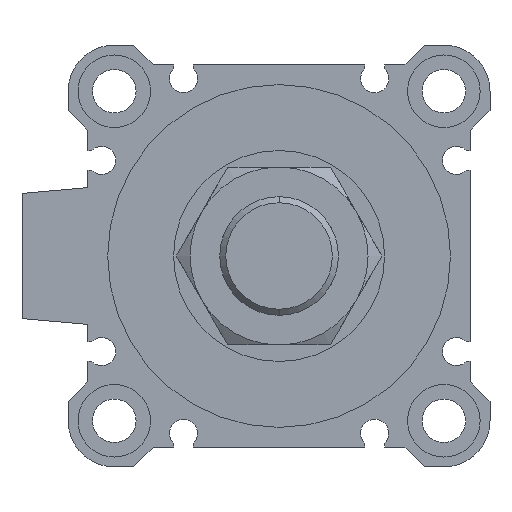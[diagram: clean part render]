
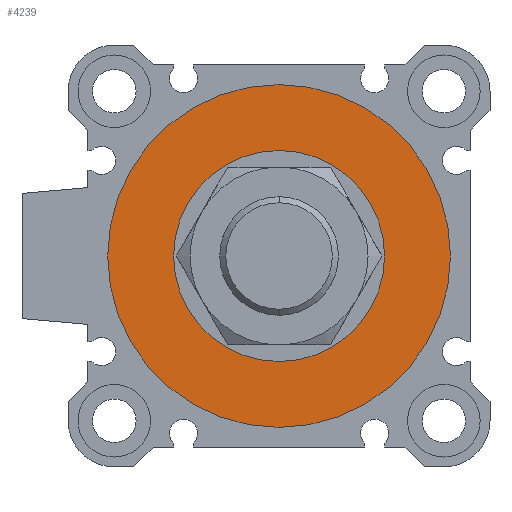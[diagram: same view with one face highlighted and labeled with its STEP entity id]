
A CAD part, left-side view. The second image highlights one B-rep face of the part: STEP entity #4239.
In plain terms, the highlighted planar face has unit normal (-1, 0, 0).
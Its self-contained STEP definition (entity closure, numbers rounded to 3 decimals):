
#64 = FACE_OUTER_BOUND ( 'NONE', #4804, .T. ) ;
#378 = AXIS2_PLACEMENT_3D ( 'NONE', #2569, #4782, #7030 ) ;
#634 = DIRECTION ( 'NONE',  ( 0., 0., -1. ) ) ;
#637 = EDGE_CURVE ( 'NONE', #2106, #3360, #5952, .T. ) ;
#689 = ORIENTED_EDGE ( 'NONE', *, *, #2751, .T. ) ;
#763 = DIRECTION ( 'NONE',  ( 1., 0., 0. ) ) ;
#842 = ORIENTED_EDGE ( 'NONE', *, *, #6433, .F. ) ;
#902 = AXIS2_PLACEMENT_3D ( 'NONE', #2491, #5251, #3650 ) ;
#1322 = CARTESIAN_POINT ( 'NONE',  ( 3., 0., 16. ) ) ;
#1748 = CARTESIAN_POINT ( 'NONE',  ( 3., 0., -16. ) ) ;
#1777 = DIRECTION ( 'NONE',  ( 0., 0., -1. ) ) ;
#2106 = VERTEX_POINT ( 'NONE', #6480 ) ;
#2284 = FACE_BOUND ( 'NONE', #6804, .T. ) ;
#2491 = CARTESIAN_POINT ( 'NONE',  ( 3., 0., 0. ) ) ;
#2569 = CARTESIAN_POINT ( 'NONE',  ( 3., 0., 0. ) ) ;
#2690 = CIRCLE ( 'NONE', #5351, 16. ) ;
#2751 = EDGE_CURVE ( 'NONE', #6582, #6770, #2690, .T. ) ;
#2755 = CARTESIAN_POINT ( 'NONE',  ( 3., 0., 0. ) ) ;
#2845 = ORIENTED_EDGE ( 'NONE', *, *, #637, .F. ) ;
#3160 = ORIENTED_EDGE ( 'NONE', *, *, #3334, .T. ) ;
#3334 = EDGE_CURVE ( 'NONE', #6770, #6582, #6049, .T. ) ;
#3360 = VERTEX_POINT ( 'NONE', #5254 ) ;
#3550 = DIRECTION ( 'NONE',  ( 1., 0., 0. ) ) ;
#3650 = DIRECTION ( 'NONE',  ( 0., 1., 0. ) ) ;
#4239 = ADVANCED_FACE ( 'NONE', ( #64, #2284 ), #6922, .F. ) ;
#4434 = AXIS2_PLACEMENT_3D ( 'NONE', #5838, #3550, #6924 ) ;
#4782 = DIRECTION ( 'NONE',  ( 1., 0., 0. ) ) ;
#4804 = EDGE_LOOP ( 'NONE', ( #842, #2845 ) ) ;
#5038 = DIRECTION ( 'NONE',  ( 1., 0., 0. ) ) ;
#5164 = AXIS2_PLACEMENT_3D ( 'NONE', #2755, #5038, #634 ) ;
#5251 = DIRECTION ( 'NONE',  ( 1., 0., 0. ) ) ;
#5254 = CARTESIAN_POINT ( 'NONE',  ( 3., 0., 26. ) ) ;
#5351 = AXIS2_PLACEMENT_3D ( 'NONE', #6247, #763, #1777 ) ;
#5838 = CARTESIAN_POINT ( 'NONE',  ( 3., 0., 0. ) ) ;
#5952 = CIRCLE ( 'NONE', #378, 26. ) ;
#5978 = CIRCLE ( 'NONE', #5164, 26. ) ;
#6049 = CIRCLE ( 'NONE', #4434, 16. ) ;
#6247 = CARTESIAN_POINT ( 'NONE',  ( 3., 0., 0. ) ) ;
#6433 = EDGE_CURVE ( 'NONE', #3360, #2106, #5978, .T. ) ;
#6480 = CARTESIAN_POINT ( 'NONE',  ( 3., 0., -26. ) ) ;
#6582 = VERTEX_POINT ( 'NONE', #1322 ) ;
#6770 = VERTEX_POINT ( 'NONE', #1748 ) ;
#6804 = EDGE_LOOP ( 'NONE', ( #689, #3160 ) ) ;
#6922 = PLANE ( 'NONE',  #902 ) ;
#6924 = DIRECTION ( 'NONE',  ( 0., 0., -1. ) ) ;
#7030 = DIRECTION ( 'NONE',  ( 0., 0., -1. ) ) ;
